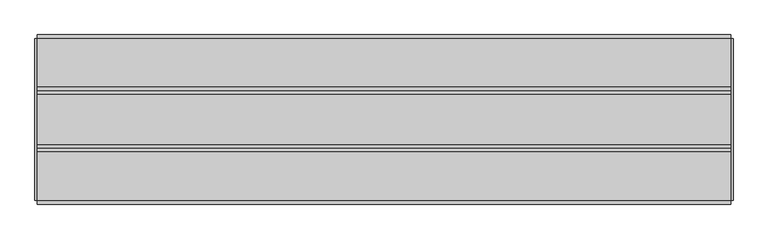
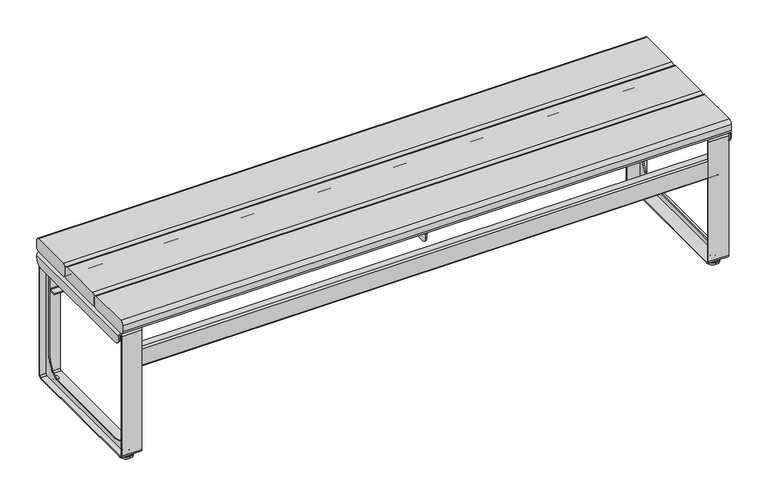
"""IFC4 building model written with IfcOpenShell, lengths in millimetres: furniture geometry, Roros Produkter - Trend - Bench - 32941 : Roros Produkter - Trend - Bench - 32941."""

from ifc_helpers import new_model, si_unit, point, frame, frame_2d, origin, place, context, project, spatial, polyline, circle_curve, ellipse_curve, trimmed, segment, composite_curve, outline, extrude, source, transform, mapped, element, save
from ifc_brep_helpers import plane_surface, cylinder_surface, revolved_surface, advanced_brep


def furniture_b0182ef4(model_context):
    return source(origin(), model_context, "Body", "SolidModel", [
        advanced_brep(
        [(2.7, 209.346, 392.5), (5.7, 209.346, 392.5), (5.7, 189.346, 372.5), (2.7, 189.346, 372.5), (2.7, 209.782, 392.5), (5.7, 209.782, 392.5), (5.7, -210.218, 392.5), (2.7, -210.218, 392.5), (2.7, -190.218, 372.5), (5.7, -190.218, 372.5), (5.7, -210.218, 401.5), (10.7, -210.218, 406.5), (68.7, -210.218, 406.5), (68.7, -210.218, 409.5), (10.7, -210.218, 409.5), (2.7, -210.218, 401.5), (2.7, 209.782, 401.5), (10.7, 209.782, 409.5), (68.7, 209.782, 409.5), (68.7, 209.782, 406.5), (10.7, 209.782, 406.5), (5.7, 209.782, 401.5)],
        [
            (0, 1),
            (1, 2, circle_curve(frame((5.7, 189.346, 392.5), z_axis=(-1.0, 0.0, 0.0), x_axis=(0.0, -1.0, 0.0)), 20.0)),
            (2, 3),
            (3, 0, circle_curve(frame((2.7, 189.346, 392.5), z_axis=(1.0, 0.0, 0.0), x_axis=(0.0, -1.0, 0.0)), 20.0)),
            (0, 4),
            (4, 5),
            (5, 1),
            (6, 7),
            (7, 8, circle_curve(frame((2.7, -190.218, 392.5), z_axis=(1.0, 0.0, 0.0), x_axis=(0.0, 1.0, 0.0)), 20.0)),
            (8, 9),
            (9, 6, circle_curve(frame((5.7, -190.218, 392.5), z_axis=(-1.0, 0.0, 0.0), x_axis=(0.0, 1.0, 0.0)), 20.0)),
            (10, 11, circle_curve(frame((10.7, -210.218, 401.5), z_axis=(0.0, 1.0, 0.0), x_axis=(1.0, 0.0, 0.0)), 5.0)),
            (11, 12),
            (12, 13),
            (13, 14),
            (14, 15, circle_curve(frame((10.7, -210.218, 401.5), z_axis=(0.0, -1.0, 0.0), x_axis=(1.0, 0.0, 0.0)), 8.0)),
            (15, 7),
            (6, 10),
            (16, 17, circle_curve(frame((10.7, 209.782, 401.5), z_axis=(0.0, 1.0, 0.0), x_axis=(1.0, 0.0, 0.0)), 8.0)),
            (17, 18),
            (18, 19),
            (19, 20),
            (20, 21, circle_curve(frame((10.7, 209.782, 401.5), z_axis=(0.0, -1.0, 0.0), x_axis=(1.0, 0.0, 0.0)), 5.0)),
            (21, 5),
            (4, 16),
            (21, 10),
            (9, 2),
            (20, 11),
            (19, 12),
            (18, 13),
            (17, 14),
            (16, 15),
            (3, 8),
        ],
        [
            cylinder_surface(frame((-939.822764, 189.346, 392.5), z_axis=(-1.0, 0.0, 0.0), x_axis=(0.0, -1.0, 0.0)), 20.0),
            plane_surface(frame((982.6059491, 214.346, 392.5), z_axis=(0.0, 0.0, -1.0), x_axis=(-1.0, 0.0, 0.0))),
            cylinder_surface(frame((0.0, -190.218, 392.5), z_axis=(-1.0, 0.0, 0.0), x_axis=(0.0, 1.0, 0.0)), 20.0),
            plane_surface(frame((5.7, -210.218, 401.5002), z_axis=(0.0, -1.0, 0.0), x_axis=(0.0, 0.0, 1.0))),
            plane_surface(frame((5.7, 209.782, 401.5002), z_axis=(0.0, 1.0, 0.0), x_axis=(0.0, 0.0, -1.0))),
            plane_surface(frame((5.7, -210.218, 372.5), z_axis=(1.0, 0.0, 0.0), x_axis=(0.0, 1.0, 0.0))),
            revolved_surface(polyline([(15.7, 209.782, 401.5), (15.7, -210.218, 401.5)]), (10.7, 209.782, 401.5), (0.0, 1.0, 0.0)),
            plane_surface(frame((10.7, -210.218, 406.5), z_axis=(0.0, 0.0, -1.0), x_axis=(0.0, 1.0, 0.0))),
            plane_surface(frame((68.7, -210.218, 406.5), z_axis=(1.0, 0.0, 0.0), x_axis=(0.0, 1.0, 0.0))),
            plane_surface(frame((68.7, -210.218, 409.5), z_axis=(0.0, 0.0, 1.0), x_axis=(0.0, 1.0, 0.0))),
            cylinder_surface(frame((10.7, 209.782, 401.5), z_axis=(0.0, -1.0, 0.0), x_axis=(1.0, 0.0, 0.0)), 8.0),
            plane_surface(frame((2.7, -210.218, 401.5), z_axis=(-1.0, 0.0, 0.0), x_axis=(0.0, 1.0, 0.0))),
            plane_surface(frame((2.7, -210.218, 372.5), z_axis=(0.0, 0.0, -1.0), x_axis=(0.0, 1.0, 0.0))),
        ],
        [
            (0, [[1, 2, 3, 4]]),
            (1, [[-1, 5, 6, 7]]),
            (2, [[8, 9, 10, 11]]),
            (3, [[12, 13, 14, 15, 16, 17, -8, 18]]),
            (4, [[19, 20, 21, 22, 23, 24, -6, 25]]),
            (5, [[26, -18, -11, 27, -2, -7, -24]]),
            (6, [[-12, -26, -23, 28]]),
            (7, [[-13, -28, -22, 29]]),
            (8, [[-14, -29, -21, 30]]),
            (9, [[-15, -30, -20, 31]]),
            (10, [[-16, -31, -19, 32]]),
            (11, [[-32, -25, -5, -4, 33, -9, -17]]),
            (12, [[-27, -10, -33, -3]]),
        ],
    ),
        extrude(outline(polyline([(876.3, -176.0925227), (876.3, -185.9074773), (867.8, -190.8149546), (859.3, -185.9074773), (859.3, -176.0925227), (867.8, -171.1850454), (876.3, -176.0925227)])), frame((0.0, 0.0, 10.0), z_axis=(0.0, 0.0, 1.0), x_axis=(1.0, 0.0, 0.0)), (0.0, 0.0, 1.0), 11.7),
        advanced_brep(
        [(867.8, -162.5, 4.3376919), (867.8, -199.5, 4.3376919), (867.8, -199.5, 0.0), (867.8, -162.5, 0.0), (867.8, -163.4907598, 6.0888539), (867.8, -198.5092402, 6.0888539), (867.8, -170.0, 10.0), (867.8, -192.0, 10.0), (867.8, -181.0, 10.0), (867.8, -181.0, 0.0)],
        [
            (0, 1, circle_curve(frame((867.8, -181.0, 4.3376919), z_axis=(0.0, 0.0, -1.0), x_axis=(0.0, -1.0, 0.0)), 18.5)),
            (1, 2),
            (2, 3, circle_curve(frame((867.8, -181.0, 0.0), z_axis=(0.0, 0.0, 1.0), x_axis=(0.0, -1.0, 0.0)), 18.5)),
            (3, 0),
            (1, 0, circle_curve(frame((867.8, -181.0, 4.3376919), z_axis=(0.0, 0.0, -1.0), x_axis=(0.0, -1.0, 0.0)), 18.5)),
            (3, 2, circle_curve(frame((867.8, -181.0, 0.0), z_axis=(0.0, 0.0, 1.0), x_axis=(0.0, -1.0, 0.0)), 18.5)),
            (4, 5, circle_curve(frame((867.8, -181.0, 6.0888539), z_axis=(0.0, 0.0, -1.0), x_axis=(0.0, -1.0, 0.0)), 17.5092402)),
            (5, 1, circle_curve(frame((867.8, -197.457036, 4.3376919), z_axis=(1.0, 0.0, 0.0), x_axis=(0.0, 1.0, 0.0)), 2.042964)),
            (0, 4, circle_curve(frame((867.8, -164.542964, 4.3376919), z_axis=(1.0, 0.0, 0.0), x_axis=(0.0, -1.0, 0.0)), 2.042964)),
            (5, 4, circle_curve(frame((867.8, -181.0, 6.0888539), z_axis=(0.0, 0.0, -1.0), x_axis=(0.0, -1.0, 0.0)), 17.5092402)),
            (6, 7, circle_curve(frame((867.8, -181.0, 10.0), z_axis=(0.0, 0.0, -1.0), x_axis=(0.0, -1.0, 0.0)), 11.0)),
            (7, 5),
            (4, 6),
            (7, 6, circle_curve(frame((867.8, -181.0, 10.0), z_axis=(0.0, 0.0, -1.0), x_axis=(0.0, -1.0, 0.0)), 11.0)),
            (8, 7),
            (6, 8),
            (2, 9),
            (9, 3),
        ],
        [
            cylinder_surface(frame((867.8, -181.0, 10.0), z_axis=(0.0, 0.0, 1.0), x_axis=(0.0, -1.0, 0.0)), 18.5),
            revolved_surface(trimmed(ellipse_curve(frame((867.8, -197.457036, 4.3376919), z_axis=(-1.0, 0.0, 0.0), x_axis=(0.0, 1.0, 0.0)), 2.042964, 2.042964), [point((867.8, -199.5, 4.3376919))], [point((867.8, -198.5092402, 6.0888539))], True, "CARTESIAN"), (867.8, -181.0, 10.0), (0.0, 0.0, 1.0)),
            revolved_surface(polyline([(867.8, -198.5092402, 6.0888539), (867.8, -192.0, 10.0)]), (867.8, -181.0, 10.0), (0.0, 0.0, 1.0)),
            plane_surface(frame((867.8, -181.0, 10.0), z_axis=(0.0, 0.0, 1.0), x_axis=(0.0, -1.0, 0.0))),
            plane_surface(frame((867.8, -181.0, 0.0), z_axis=(0.0, 0.0, -1.0), x_axis=(0.0, -1.0, 0.0))),
        ],
        [
            (0, [[1, 2, 3, 4]]),
            (0, [[5, -4, 6, -2]]),
            (1, [[7, 8, -1, 9]]),
            (1, [[10, -9, -5, -8]]),
            (2, [[11, 12, -7, 13]]),
            (2, [[14, -13, -10, -12]]),
            (3, [[15, -11, 16]]),
            (3, [[-16, -14, -15]]),
            (4, [[-3, 17, 18]]),
            (4, [[-6, -18, -17]]),
        ],
    ),
        extrude(outline(polyline([(876.3, 185.9074773), (876.3, 176.0925227), (867.8, 171.1850454), (859.3, 176.0925227), (859.3, 185.9074773), (867.8, 190.8149546), (876.3, 185.9074773)])), frame((0.0, 0.0, 10.0), z_axis=(0.0, 0.0, 1.0), x_axis=(1.0, 0.0, 0.0)), (0.0, 0.0, 1.0), 11.7),
        advanced_brep(
        [(867.8, 162.5, 0.0), (867.8, 199.5, 0.0), (867.8, 199.5, 4.3376919), (867.8, 162.5, 4.3376919), (867.8, 198.5092402, 6.0888539), (867.8, 163.4907598, 6.0888539), (867.8, 192.0, 10.0), (867.8, 170.0, 10.0), (867.8, 181.0, 10.0), (867.8, 181.0, 0.0)],
        [
            (0, 1, circle_curve(frame((867.8, 181.0, 0.0), z_axis=(0.0, 0.0, 1.0), x_axis=(0.0, 1.0, 0.0)), 18.5)),
            (1, 2),
            (2, 3, circle_curve(frame((867.8, 181.0, 4.3376919), z_axis=(0.0, 0.0, -1.0), x_axis=(0.0, 1.0, 0.0)), 18.5)),
            (3, 0),
            (1, 0, circle_curve(frame((867.8, 181.0, 0.0), z_axis=(0.0, 0.0, 1.0), x_axis=(0.0, 1.0, 0.0)), 18.5)),
            (3, 2, circle_curve(frame((867.8, 181.0, 4.3376919), z_axis=(0.0, 0.0, -1.0), x_axis=(0.0, 1.0, 0.0)), 18.5)),
            (2, 4, circle_curve(frame((867.8, 197.457036, 4.3376919), z_axis=(1.0, 0.0, 0.0), x_axis=(0.0, -1.0, 0.0)), 2.042964)),
            (4, 5, circle_curve(frame((867.8, 181.0, 6.0888539), z_axis=(0.0, 0.0, -1.0), x_axis=(0.0, 1.0, 0.0)), 17.5092402)),
            (5, 3, circle_curve(frame((867.8, 164.542964, 4.3376919), z_axis=(1.0, 0.0, 0.0), x_axis=(0.0, 1.0, 0.0)), 2.042964)),
            (5, 4, circle_curve(frame((867.8, 181.0, 6.0888539), z_axis=(0.0, 0.0, -1.0), x_axis=(0.0, 1.0, 0.0)), 17.5092402)),
            (4, 6),
            (6, 7, circle_curve(frame((867.8, 181.0, 10.0), z_axis=(0.0, 0.0, -1.0), x_axis=(0.0, 1.0, 0.0)), 11.0)),
            (7, 5),
            (7, 6, circle_curve(frame((867.8, 181.0, 10.0), z_axis=(0.0, 0.0, -1.0), x_axis=(0.0, 1.0, 0.0)), 11.0)),
            (6, 8),
            (8, 7),
            (9, 1),
            (0, 9),
        ],
        [
            cylinder_surface(frame((867.8, 181.0, 10.0), z_axis=(0.0, 0.0, -1.0), x_axis=(0.0, 1.0, 0.0)), 18.5),
            revolved_surface(trimmed(ellipse_curve(frame((867.8, 197.457036, 4.3376919), z_axis=(-1.0, 0.0, 0.0), x_axis=(0.0, -1.0, 0.0)), 2.042964, 2.042964), [point((867.8, 198.5092402, 6.0888539))], [point((867.8, 199.5, 4.3376919))], True, "CARTESIAN"), (867.8, 181.0, 10.0), (0.0, 0.0, -1.0)),
            revolved_surface(polyline([(867.8, 192.0, 10.0), (867.8, 198.5092402, 6.0888539)]), (867.8, 181.0, 10.0), (0.0, 0.0, -1.0)),
            plane_surface(frame((867.8, 181.0, 10.0), z_axis=(0.0, 0.0, 1.0), x_axis=(0.0, 1.0, 0.0))),
            plane_surface(frame((867.8, 181.0, 0.0), z_axis=(0.0, 0.0, -1.0), x_axis=(0.0, 1.0, 0.0))),
        ],
        [
            (0, [[1, 2, 3, 4]]),
            (0, [[5, -4, 6, -2]]),
            (1, [[-3, 7, 8, 9]]),
            (1, [[-6, -9, 10, -7]]),
            (2, [[-8, 11, 12, 13]]),
            (2, [[-10, -13, 14, -11]]),
            (3, [[-12, 15, 16]]),
            (3, [[-14, -16, -15]]),
            (4, [[17, -1, 18]]),
            (4, [[-18, -5, -17]]),
        ],
    ),
        extrude(outline(polyline([(-876.3, -176.0925227), (-867.8, -171.1850454), (-859.3, -176.0925227), (-859.3, -185.9074773), (-867.8, -190.8149546), (-876.3, -185.9074773), (-876.3, -176.0925227)])), frame((0.0, 0.0, 10.0), z_axis=(0.0, 0.0, 1.0), x_axis=(1.0, 0.0, 0.0)), (0.0, 0.0, 1.0), 11.7),
        advanced_brep(
        [(-867.8, -162.5, 0.0), (-867.8, -199.5, 0.0), (-867.8, -199.5, 4.3376919), (-867.8, -162.5, 4.3376919), (-867.8, -198.5092402, 6.0888539), (-867.8, -163.4907598, 6.0888539), (-867.8, -192.0, 10.0), (-867.8, -170.0, 10.0), (-867.8, -181.0, 10.0), (-867.8, -181.0, 0.0)],
        [
            (0, 1, circle_curve(frame((-867.8, -181.0, 0.0), z_axis=(0.0, 0.0, 1.0), x_axis=(0.0, -1.0, 0.0)), 18.5)),
            (1, 2),
            (2, 3, circle_curve(frame((-867.8, -181.0, 4.3376919), z_axis=(0.0, 0.0, -1.0), x_axis=(0.0, -1.0, 0.0)), 18.5)),
            (3, 0),
            (1, 0, circle_curve(frame((-867.8, -181.0, 0.0), z_axis=(0.0, 0.0, 1.0), x_axis=(0.0, -1.0, 0.0)), 18.5)),
            (3, 2, circle_curve(frame((-867.8, -181.0, 4.3376919), z_axis=(0.0, 0.0, -1.0), x_axis=(0.0, -1.0, 0.0)), 18.5)),
            (2, 4, circle_curve(frame((-867.8, -197.457036, 4.3376919), z_axis=(-1.0, 0.0, 0.0), x_axis=(0.0, 1.0, 0.0)), 2.042964)),
            (4, 5, circle_curve(frame((-867.8, -181.0, 6.0888539), z_axis=(0.0, 0.0, -1.0), x_axis=(0.0, -1.0, 0.0)), 17.5092402)),
            (5, 3, circle_curve(frame((-867.8, -164.542964, 4.3376919), z_axis=(-1.0, 0.0, 0.0), x_axis=(0.0, -1.0, 0.0)), 2.042964)),
            (5, 4, circle_curve(frame((-867.8, -181.0, 6.0888539), z_axis=(0.0, 0.0, -1.0), x_axis=(0.0, -1.0, 0.0)), 17.5092402)),
            (4, 6),
            (6, 7, circle_curve(frame((-867.8, -181.0, 10.0), z_axis=(0.0, 0.0, -1.0), x_axis=(0.0, -1.0, 0.0)), 11.0)),
            (7, 5),
            (7, 6, circle_curve(frame((-867.8, -181.0, 10.0), z_axis=(0.0, 0.0, -1.0), x_axis=(0.0, -1.0, 0.0)), 11.0)),
            (6, 8),
            (8, 7),
            (9, 1),
            (0, 9),
        ],
        [
            cylinder_surface(frame((-867.8, -181.0, 10.0), z_axis=(0.0, 0.0, -1.0), x_axis=(0.0, -1.0, 0.0)), 18.5),
            revolved_surface(trimmed(ellipse_curve(frame((-867.8, -197.457036, 4.3376919), z_axis=(1.0, 0.0, 0.0), x_axis=(0.0, 1.0, 0.0)), 2.042964, 2.042964), [point((-867.8, -198.5092402, 6.0888539))], [point((-867.8, -199.5, 4.3376919))], True, "CARTESIAN"), (-867.8, -181.0, 10.0), (0.0, 0.0, -1.0)),
            revolved_surface(polyline([(-867.8, -192.0, 10.0), (-867.8, -198.5092402, 6.0888539)]), (-867.8, -181.0, 10.0), (0.0, 0.0, -1.0)),
            plane_surface(frame((-867.8, -181.0, 10.0), z_axis=(0.0, 0.0, 1.0), x_axis=(0.0, -1.0, 0.0))),
            plane_surface(frame((-867.8, -181.0, 0.0), z_axis=(0.0, 0.0, -1.0), x_axis=(0.0, -1.0, 0.0))),
        ],
        [
            (0, [[1, 2, 3, 4]]),
            (0, [[5, -4, 6, -2]]),
            (1, [[-3, 7, 8, 9]]),
            (1, [[-6, -9, 10, -7]]),
            (2, [[-8, 11, 12, 13]]),
            (2, [[-10, -13, 14, -11]]),
            (3, [[-12, 15, 16]]),
            (3, [[-14, -16, -15]]),
            (4, [[17, -1, 18]]),
            (4, [[-18, -5, -17]]),
        ],
    ),
        extrude(outline(polyline([(-876.3, 185.9074773), (-867.8, 190.8149546), (-859.3, 185.9074773), (-859.3, 176.0925227), (-867.8, 171.1850454), (-876.3, 176.0925227), (-876.3, 185.9074773)])), frame((0.0, 0.0, 10.0), z_axis=(0.0, 0.0, 1.0), x_axis=(1.0, 0.0, 0.0)), (0.0, 0.0, 1.0), 11.7),
        advanced_brep(
        [(-867.8, 162.5, 4.3376919), (-867.8, 199.5, 4.3376919), (-867.8, 199.5, 0.0), (-867.8, 162.5, 0.0), (-867.8, 163.4907598, 6.0888539), (-867.8, 198.5092402, 6.0888539), (-867.8, 170.0, 10.0), (-867.8, 192.0, 10.0), (-867.8, 181.0, 10.0), (-867.8, 181.0, 0.0)],
        [
            (0, 1, circle_curve(frame((-867.8, 181.0, 4.3376919), z_axis=(0.0, 0.0, -1.0), x_axis=(0.0, 1.0, 0.0)), 18.5)),
            (1, 2),
            (2, 3, circle_curve(frame((-867.8, 181.0, 0.0), z_axis=(0.0, 0.0, 1.0), x_axis=(0.0, 1.0, 0.0)), 18.5)),
            (3, 0),
            (1, 0, circle_curve(frame((-867.8, 181.0, 4.3376919), z_axis=(0.0, 0.0, -1.0), x_axis=(0.0, 1.0, 0.0)), 18.5)),
            (3, 2, circle_curve(frame((-867.8, 181.0, 0.0), z_axis=(0.0, 0.0, 1.0), x_axis=(0.0, 1.0, 0.0)), 18.5)),
            (4, 5, circle_curve(frame((-867.8, 181.0, 6.0888539), z_axis=(0.0, 0.0, -1.0), x_axis=(0.0, 1.0, 0.0)), 17.5092402)),
            (5, 1, circle_curve(frame((-867.8, 197.457036, 4.3376919), z_axis=(-1.0, 0.0, 0.0), x_axis=(0.0, -1.0, 0.0)), 2.042964)),
            (0, 4, circle_curve(frame((-867.8, 164.542964, 4.3376919), z_axis=(-1.0, 0.0, 0.0), x_axis=(0.0, 1.0, 0.0)), 2.042964)),
            (5, 4, circle_curve(frame((-867.8, 181.0, 6.0888539), z_axis=(0.0, 0.0, -1.0), x_axis=(0.0, 1.0, 0.0)), 17.5092402)),
            (6, 7, circle_curve(frame((-867.8, 181.0, 10.0), z_axis=(0.0, 0.0, -1.0), x_axis=(0.0, 1.0, 0.0)), 11.0)),
            (7, 5),
            (4, 6),
            (7, 6, circle_curve(frame((-867.8, 181.0, 10.0), z_axis=(0.0, 0.0, -1.0), x_axis=(0.0, 1.0, 0.0)), 11.0)),
            (8, 7),
            (6, 8),
            (2, 9),
            (9, 3),
        ],
        [
            cylinder_surface(frame((-867.8, 181.0, 10.0), z_axis=(0.0, 0.0, 1.0), x_axis=(0.0, 1.0, 0.0)), 18.5),
            revolved_surface(trimmed(ellipse_curve(frame((-867.8, 197.457036, 4.3376919), z_axis=(1.0, 0.0, 0.0), x_axis=(0.0, -1.0, 0.0)), 2.042964, 2.042964), [point((-867.8, 199.5, 4.3376919))], [point((-867.8, 198.5092402, 6.0888539))], True, "CARTESIAN"), (-867.8, 181.0, 10.0), (0.0, 0.0, 1.0)),
            revolved_surface(polyline([(-867.8, 198.5092402, 6.0888539), (-867.8, 192.0, 10.0)]), (-867.8, 181.0, 10.0), (0.0, 0.0, 1.0)),
            plane_surface(frame((-867.8, 181.0, 10.0), z_axis=(0.0, 0.0, 1.0), x_axis=(0.0, 1.0, 0.0))),
            plane_surface(frame((-867.8, 181.0, 0.0), z_axis=(0.0, 0.0, -1.0), x_axis=(0.0, 1.0, 0.0))),
        ],
        [
            (0, [[1, 2, 3, 4]]),
            (0, [[5, -4, 6, -2]]),
            (1, [[7, 8, -1, 9]]),
            (1, [[10, -9, -5, -8]]),
            (2, [[11, 12, -7, 13]]),
            (2, [[14, -13, -10, -12]]),
            (3, [[15, -11, 16]]),
            (3, [[-16, -14, -15]]),
            (4, [[-3, 17, 18]]),
            (4, [[-6, -18, -17]]),
        ],
    ),
        extrude(outline(composite_curve([segment(trimmed(circle_curve(frame_2d((203.5, 337.0)), 4.5), [point((203.5, 341.5))], [point((208.0, 337.0))], False, "CARTESIAN"), True, "CONTINUOUS"), segment(polyline([(208.0, 337.0), (208.0, 285.999996)]), True, "CONTINUOUS"), segment(trimmed(circle_curve(frame_2d((203.5, 285.999996)), 4.5), [point((208.0, 285.999996))], [point((203.5, 281.499996))], False, "CARTESIAN"), True, "CONTINUOUS"), segment(polyline([(203.5, 281.499996), (183.0, 281.499996), (183.0, 283.4999961), (203.5, 283.4999961)]), True, "CONTINUOUS"), segment(trimmed(circle_curve(frame_2d((203.5, 285.9999961)), 2.5), [point((203.5, 283.4999961))], [point((206.0, 285.9999961))], True, "CARTESIAN"), True, "CONTINUOUS"), segment(polyline([(206.0, 285.9999961), (206.0, 336.9999999)]), True, "CONTINUOUS"), segment(trimmed(circle_curve(frame_2d((203.5, 336.9999999)), 2.5), [point((206.0, 336.9999999))], [point((203.5, 339.4999999))], True, "CARTESIAN"), True, "CONTINUOUS"), segment(polyline([(203.5, 339.4999999), (183.0, 339.4999999), (183.0, 341.5), (203.5, 341.5)]), True, "CONTINUOUS")], self_intersect=False)), frame((-870.0, 0.0, 0.0), z_axis=(1.0, 0.0, 0.0), x_axis=(0.0, 1.0, 0.0)), (0.0, 0.0, 1.0), 1740.0),
        extrude(outline(composite_curve([segment(polyline([(-203.5, 341.5), (-183.0, 341.5), (-183.0, 339.4999999), (-203.5, 339.4999999)]), True, "CONTINUOUS"), segment(trimmed(circle_curve(frame_2d((-203.5, 336.9999999)), 2.5), [point((-203.5, 339.4999999))], [point((-206.0, 336.9999999))], True, "CARTESIAN"), True, "CONTINUOUS"), segment(polyline([(-206.0, 336.9999999), (-206.0, 285.9999961)]), True, "CONTINUOUS"), segment(trimmed(circle_curve(frame_2d((-203.5, 285.9999961)), 2.5), [point((-206.0, 285.9999961))], [point((-203.5, 283.4999961))], True, "CARTESIAN"), True, "CONTINUOUS"), segment(polyline([(-203.5, 283.4999961), (-183.0, 283.4999961), (-183.0, 281.499996), (-203.5, 281.499996)]), True, "CONTINUOUS"), segment(trimmed(circle_curve(frame_2d((-203.5, 285.999996)), 4.5), [point((-203.5, 281.499996))], [point((-208.0, 285.999996))], False, "CARTESIAN"), True, "CONTINUOUS"), segment(polyline([(-208.0, 285.999996), (-208.0, 337.0)]), True, "CONTINUOUS"), segment(trimmed(circle_curve(frame_2d((-203.5, 337.0)), 4.5), [point((-208.0, 337.0))], [point((-203.5, 341.5))], False, "CARTESIAN"), True, "CONTINUOUS")], self_intersect=False)), frame((-870.0, 0.0, 0.0), z_axis=(1.0, 0.0, 0.0), x_axis=(0.0, 1.0, 0.0)), (0.0, 0.0, 1.0), 1740.0),
        extrude(outline(composite_curve([segment(trimmed(circle_curve(frame_2d((65.0, 439.5)), 10.0), [point((65.0, 449.5))], [point((75.0, 439.5))], False, "CARTESIAN"), True, "CONTINUOUS"), segment(polyline([(75.0, 439.5), (75.0, 419.5)]), True, "CONTINUOUS"), segment(trimmed(circle_curve(frame_2d((65.0, 419.5)), 10.0), [point((75.0, 419.5))], [point((65.0, 409.5))], False, "CARTESIAN"), True, "CONTINUOUS"), segment(polyline([(65.0, 409.5), (-65.0, 409.5)]), True, "CONTINUOUS"), segment(trimmed(circle_curve(frame_2d((-65.0, 419.5)), 10.0), [point((-65.0, 409.5))], [point((-75.0, 419.5))], False, "CARTESIAN"), True, "CONTINUOUS"), segment(polyline([(-75.0, 419.5), (-75.0, 439.5)]), True, "CONTINUOUS"), segment(trimmed(circle_curve(frame_2d((-65.0, 439.5)), 10.0), [point((-75.0, 439.5))], [point((-65.0, 449.5))], False, "CARTESIAN"), True, "CONTINUOUS"), segment(polyline([(-65.0, 449.5), (65.0, 449.5)]), True, "CONTINUOUS")], self_intersect=False)), frame((-900.0, 0.0, 0.0), z_axis=(1.0, 0.0, 0.0), x_axis=(0.0, 1.0, 0.0)), (0.0, 0.0, 1.0), 1800.0),
        extrude(outline(composite_curve([segment(trimmed(circle_curve(frame_2d((210.0, 439.5)), 10.0), [point((210.0, 449.5))], [point((220.0, 439.5))], False, "CARTESIAN"), True, "CONTINUOUS"), segment(polyline([(220.0, 439.5), (220.0, 419.5)]), True, "CONTINUOUS"), segment(trimmed(circle_curve(frame_2d((210.0, 419.5)), 10.0), [point((220.0, 419.5))], [point((210.0, 409.5))], False, "CARTESIAN"), True, "CONTINUOUS"), segment(polyline([(210.0, 409.5), (85.0, 409.5)]), True, "CONTINUOUS"), segment(trimmed(circle_curve(frame_2d((85.0, 419.5)), 10.0), [point((85.0, 409.5))], [point((75.0, 419.5))], False, "CARTESIAN"), True, "CONTINUOUS"), segment(polyline([(75.0, 419.5), (75.0, 439.5)]), True, "CONTINUOUS"), segment(trimmed(circle_curve(frame_2d((85.0, 439.5)), 10.0), [point((75.0, 439.5))], [point((85.0, 449.5))], False, "CARTESIAN"), True, "CONTINUOUS"), segment(polyline([(85.0, 449.5), (210.0, 449.5)]), True, "CONTINUOUS")], self_intersect=False)), frame((-900.0, 0.0, 0.0), z_axis=(1.0, 0.0, 0.0), x_axis=(0.0, 1.0, 0.0)), (0.0, 0.0, 1.0), 1800.0),
        extrude(outline(composite_curve([segment(trimmed(circle_curve(frame_2d((-85.0, 439.5)), 10.0), [point((-85.0, 449.5))], [point((-75.0, 439.5))], False, "CARTESIAN"), True, "CONTINUOUS"), segment(polyline([(-75.0, 439.5), (-75.0, 419.5)]), True, "CONTINUOUS"), segment(trimmed(circle_curve(frame_2d((-85.0, 419.5)), 10.0), [point((-75.0, 419.5))], [point((-85.0, 409.5))], False, "CARTESIAN"), True, "CONTINUOUS"), segment(polyline([(-85.0, 409.5), (-210.0, 409.5)]), True, "CONTINUOUS"), segment(trimmed(circle_curve(frame_2d((-210.0, 419.5)), 10.0), [point((-210.0, 409.5))], [point((-220.0, 419.5))], False, "CARTESIAN"), True, "CONTINUOUS"), segment(polyline([(-220.0, 419.5), (-220.0, 439.5)]), True, "CONTINUOUS"), segment(trimmed(circle_curve(frame_2d((-210.0, 439.5)), 10.0), [point((-220.0, 439.5))], [point((-210.0, 449.5))], False, "CARTESIAN"), True, "CONTINUOUS"), segment(polyline([(-210.0, 449.5), (-85.0, 449.5)]), True, "CONTINUOUS")], self_intersect=False)), frame((-900.0, 0.0, 0.0), z_axis=(1.0, 0.0, 0.0), x_axis=(0.0, 1.0, 0.0)), (0.0, 0.0, 1.0), 1800.0),
        advanced_brep(
        [(905.7, -210.218, 401.5), (897.7, -210.218, 409.5), (839.7, -210.218, 409.5), (839.7, -210.218, 406.5), (897.7, -210.218, 406.5), (902.7, -210.218, 401.5), (902.7, -210.218, 392.5), (905.7, -210.218, 392.5), (902.7, 209.782, 401.5), (897.7, 209.782, 406.5), (839.7, 209.782, 406.5), (839.7, 209.782, 409.5), (897.7, 209.782, 409.5), (905.7, 209.782, 401.5), (905.7, 209.782, 392.5), (902.7, 209.782, 392.5), (902.7, 209.346, 392.5), (902.7, 189.346, 372.5), (902.7, -190.218, 372.5), (905.7, -190.218, 372.5), (905.7, 189.346, 372.5), (905.7, 209.346, 392.5)],
        [
            (0, 1, circle_curve(frame((897.7, -210.218, 401.5), z_axis=(0.0, -1.0, 0.0), x_axis=(-1.0, 0.0, 0.0)), 8.0)),
            (1, 2),
            (2, 3),
            (3, 4),
            (4, 5, circle_curve(frame((897.7, -210.218, 401.5), z_axis=(0.0, 1.0, 0.0), x_axis=(-1.0, 0.0, 0.0)), 5.0)),
            (5, 6),
            (6, 7),
            (7, 0),
            (8, 9, circle_curve(frame((897.7, 209.782, 401.5), z_axis=(0.0, -1.0, 0.0), x_axis=(-1.0, 0.0, 0.0)), 5.0)),
            (9, 10),
            (10, 11),
            (11, 12),
            (12, 13, circle_curve(frame((897.7, 209.782, 401.5), z_axis=(0.0, 1.0, 0.0), x_axis=(-1.0, 0.0, 0.0)), 8.0)),
            (13, 14),
            (14, 15),
            (15, 8),
            (5, 8),
            (15, 16),
            (16, 17, circle_curve(frame((902.7, 189.346, 392.5), z_axis=(-1.0, 0.0, 0.0), x_axis=(0.0, -1.0, 0.0)), 20.0)),
            (17, 18),
            (18, 6, circle_curve(frame((902.7, -190.218, 392.5), z_axis=(-1.0, 0.0, 0.0), x_axis=(0.0, 1.0, 0.0)), 20.0)),
            (4, 9),
            (3, 10),
            (2, 11),
            (1, 12),
            (0, 13),
            (7, 19, circle_curve(frame((905.7, -190.218, 392.5), z_axis=(1.0, 0.0, 0.0), x_axis=(0.0, 1.0, 0.0)), 20.0)),
            (19, 20),
            (20, 21, circle_curve(frame((905.7, 189.346, 392.5), z_axis=(1.0, 0.0, 0.0), x_axis=(0.0, -1.0, 0.0)), 20.0)),
            (21, 14),
            (19, 18),
            (17, 20),
            (16, 21),
        ],
        [
            plane_surface(frame((905.7, -210.218, 372.5), z_axis=(0.0, -1.0, 0.0), x_axis=(1.0, 0.0, 0.0))),
            plane_surface(frame((905.7, 209.782, 372.5), z_axis=(0.0, 1.0, 0.0), x_axis=(-1.0, 0.0, 0.0))),
            plane_surface(frame((902.7, -210.218, 401.5), z_axis=(-1.0, 0.0, 0.0), x_axis=(0.0, 1.0, 0.0))),
            revolved_surface(polyline([(892.7, 209.782, 401.5), (892.7, -210.218, 401.5)]), (897.7, 209.782, 401.5), (0.0, 1.0, 0.0)),
            plane_surface(frame((839.7, -210.218, 406.5), z_axis=(0.0, 0.0, -1.0), x_axis=(0.0, 1.0, 0.0))),
            plane_surface(frame((839.7, -210.218, 409.5), z_axis=(-1.0, 0.0, 0.0), x_axis=(0.0, 1.0, 0.0))),
            plane_surface(frame((897.7, -210.218, 409.5), z_axis=(0.0, 0.0, 1.0), x_axis=(0.0, 1.0, 0.0))),
            cylinder_surface(frame((897.7, 209.782, 401.5), z_axis=(0.0, -1.0, 0.0), x_axis=(-1.0, 0.0, 0.0)), 8.0),
            plane_surface(frame((905.7, -210.218, 372.5), z_axis=(1.0, 0.0, 0.0), x_axis=(0.0, 1.0, 0.0))),
            plane_surface(frame((902.7, -210.218, 372.5), z_axis=(0.0, 0.0, -1.0), x_axis=(0.0, 1.0, 0.0))),
            cylinder_surface(frame((-939.822764, 189.346, 392.5), z_axis=(-1.0, 0.0, 0.0), x_axis=(0.0, -1.0, 0.0)), 20.0),
            plane_surface(frame((982.6059491, 214.346, 392.5), z_axis=(0.0, 0.0, -1.0), x_axis=(-1.0, 0.0, 0.0))),
            cylinder_surface(frame((0.0, -190.218, 392.5), z_axis=(-1.0, 0.0, 0.0), x_axis=(0.0, 1.0, 0.0)), 20.0),
        ],
        [
            (0, [[1, 2, 3, 4, 5, 6, 7, 8]]),
            (1, [[9, 10, 11, 12, 13, 14, 15, 16]]),
            (2, [[17, -16, 18, 19, 20, 21, -6]]),
            (3, [[-5, 22, -9, -17]]),
            (4, [[-4, 23, -10, -22]]),
            (5, [[-3, 24, -11, -23]]),
            (6, [[-2, 25, -12, -24]]),
            (7, [[-1, 26, -13, -25]]),
            (8, [[-26, -8, 27, 28, 29, 30, -14]]),
            (9, [[-28, 31, -20, 32]]),
            (10, [[33, -29, -32, -19]]),
            (11, [[-33, -18, -15, -30]]),
            (12, [[-7, -21, -31, -27]]),
        ],
    ),
        advanced_brep(
        [(-902.7, -210.218, 401.5), (-897.7, -210.218, 406.5), (-839.7, -210.218, 406.5), (-839.7, -210.218, 409.5), (-897.7, -210.218, 409.5), (-905.7, -210.218, 401.5), (-905.7, -210.218, 392.5), (-902.7, -210.218, 392.5), (-905.7, 209.782, 401.5), (-897.7, 209.782, 409.5), (-839.7, 209.782, 409.5), (-839.7, 209.782, 406.5), (-897.7, 209.782, 406.5), (-902.7, 209.782, 401.5), (-902.7, 209.782, 392.5), (-905.7, 209.782, 392.5), (-902.7, -190.218, 372.5), (-902.7, 189.346, 372.5), (-902.7, 209.346, 392.5), (-905.7, 209.346, 392.5), (-905.7, 189.346, 372.5), (-905.7, -190.218, 372.5)],
        [
            (0, 1, circle_curve(frame((-897.7, -210.218, 401.5), z_axis=(0.0, 1.0, 0.0), x_axis=(1.0, 0.0, 0.0)), 5.0)),
            (1, 2),
            (2, 3),
            (3, 4),
            (4, 5, circle_curve(frame((-897.7, -210.218, 401.5), z_axis=(0.0, -1.0, 0.0), x_axis=(1.0, 0.0, 0.0)), 8.0)),
            (5, 6),
            (6, 7),
            (7, 0),
            (8, 9, circle_curve(frame((-897.7, 209.782, 401.5), z_axis=(0.0, 1.0, 0.0), x_axis=(1.0, 0.0, 0.0)), 8.0)),
            (9, 10),
            (10, 11),
            (11, 12),
            (12, 13, circle_curve(frame((-897.7, 209.782, 401.5), z_axis=(0.0, -1.0, 0.0), x_axis=(1.0, 0.0, 0.0)), 5.0)),
            (13, 14),
            (14, 15),
            (15, 8),
            (13, 0),
            (7, 16, circle_curve(frame((-902.7, -190.218, 392.5), z_axis=(1.0, 0.0, 0.0), x_axis=(0.0, 1.0, 0.0)), 20.0)),
            (16, 17),
            (17, 18, circle_curve(frame((-902.7, 189.346, 392.5), z_axis=(1.0, 0.0, 0.0), x_axis=(0.0, -1.0, 0.0)), 20.0)),
            (18, 14),
            (12, 1),
            (11, 2),
            (10, 3),
            (9, 4),
            (8, 5),
            (15, 19),
            (19, 20, circle_curve(frame((-905.7, 189.346, 392.5), z_axis=(-1.0, 0.0, 0.0), x_axis=(0.0, -1.0, 0.0)), 20.0)),
            (20, 21),
            (21, 6, circle_curve(frame((-905.7, -190.218, 392.5), z_axis=(-1.0, 0.0, 0.0), x_axis=(0.0, 1.0, 0.0)), 20.0)),
            (16, 21),
            (20, 17),
            (19, 18),
        ],
        [
            plane_surface(frame((-902.7, -210.218, 401.5002), z_axis=(0.0, -1.0, 0.0), x_axis=(0.0, 0.0, 1.0))),
            plane_surface(frame((-902.7, 209.782, 401.5002), z_axis=(0.0, 1.0, 0.0), x_axis=(0.0, 0.0, -1.0))),
            plane_surface(frame((-902.7, -210.218, 372.5), z_axis=(1.0, 0.0, 0.0), x_axis=(0.0, 1.0, 0.0))),
            revolved_surface(polyline([(-892.7, 209.782, 401.5), (-892.7, -210.218, 401.5)]), (-897.7, 209.782, 401.5), (0.0, 1.0, 0.0)),
            plane_surface(frame((-897.7, -210.218, 406.5), z_axis=(0.0, 0.0, -1.0), x_axis=(0.0, 1.0, 0.0))),
            plane_surface(frame((-839.7, -210.218, 406.5), z_axis=(1.0, 0.0, 0.0), x_axis=(0.0, 1.0, 0.0))),
            plane_surface(frame((-839.7, -210.218, 409.5), z_axis=(0.0, 0.0, 1.0), x_axis=(0.0, 1.0, 0.0))),
            cylinder_surface(frame((-897.7, 209.782, 401.5), z_axis=(0.0, -1.0, 0.0), x_axis=(1.0, 0.0, 0.0)), 8.0),
            plane_surface(frame((-905.7, -210.218, 401.5), z_axis=(-1.0, 0.0, 0.0), x_axis=(0.0, 1.0, 0.0))),
            plane_surface(frame((-905.7, -210.218, 372.5), z_axis=(0.0, 0.0, -1.0), x_axis=(0.0, 1.0, 0.0))),
            cylinder_surface(frame((-939.822764, 189.346, 392.5), z_axis=(-1.0, 0.0, 0.0), x_axis=(0.0, -1.0, 0.0)), 20.0),
            plane_surface(frame((982.6059491, 214.346, 392.5), z_axis=(0.0, 0.0, -1.0), x_axis=(-1.0, 0.0, 0.0))),
            cylinder_surface(frame((0.0, -190.218, 392.5), z_axis=(-1.0, 0.0, 0.0), x_axis=(0.0, 1.0, 0.0)), 20.0),
        ],
        [
            (0, [[1, 2, 3, 4, 5, 6, 7, 8]]),
            (1, [[9, 10, 11, 12, 13, 14, 15, 16]]),
            (2, [[17, -8, 18, 19, 20, 21, -14]]),
            (3, [[-1, -17, -13, 22]]),
            (4, [[-2, -22, -12, 23]]),
            (5, [[-3, -23, -11, 24]]),
            (6, [[-4, -24, -10, 25]]),
            (7, [[-5, -25, -9, 26]]),
            (8, [[-26, -16, 27, 28, 29, 30, -6]]),
            (9, [[-19, 31, -29, 32]]),
            (10, [[33, -20, -32, -28]]),
            (11, [[-33, -27, -15, -21]]),
            (12, [[-7, -30, -31, -18]]),
        ],
    ),
        extrude(outline(composite_curve([segment(trimmed(circle_curve(frame_2d((-203.0, 398.5)), 5.0), [point((-208.0, 398.5))], [point((-203.0, 403.5))], False, "CARTESIAN"), True, "CONTINUOUS"), segment(polyline([(-203.0, 403.5), (-91.0, 403.5), (-91.0, 387.5), (-143.0, 387.5)]), True, "CONTINUOUS"), segment(trimmed(circle_curve(frame_2d((-143.0, 337.5)), 50.0), [point((-143.0, 387.5))], [point((-193.0, 337.5))], True, "CARTESIAN"), True, "CONTINUOUS"), segment(polyline([(-193.0, 337.5), (-193.0, 84.5)]), True, "CONTINUOUS"), segment(trimmed(circle_curve(frame_2d((-143.0, 84.5)), 50.0), [point((-193.0, 84.5))], [point((-143.0, 34.5))], True, "CARTESIAN"), True, "CONTINUOUS"), segment(polyline([(-143.0, 34.5), (143.0, 34.5)]), True, "CONTINUOUS"), segment(trimmed(circle_curve(frame_2d((143.0, 84.5)), 50.0), [point((143.0, 34.5))], [point((193.0, 84.5))], True, "CARTESIAN"), True, "CONTINUOUS"), segment(polyline([(193.0, 84.5), (193.0, 337.5)]), True, "CONTINUOUS"), segment(trimmed(circle_curve(frame_2d((143.0, 337.5)), 50.0), [point((193.0, 337.5))], [point((143.0, 387.5))], True, "CARTESIAN"), True, "CONTINUOUS"), segment(polyline([(143.0, 387.5), (91.0, 387.5), (91.0, 403.5), (203.0, 403.5)]), True, "CONTINUOUS"), segment(trimmed(circle_curve(frame_2d((203.0, 398.5)), 5.0), [point((203.0, 403.5))], [point((208.0, 398.5))], False, "CARTESIAN"), True, "CONTINUOUS"), segment(polyline([(208.0, 398.5), (208.0, 24.5)]), True, "CONTINUOUS"), segment(trimmed(circle_curve(frame_2d((203.0, 24.5)), 5.0), [point((208.0, 24.5))], [point((203.0, 19.5))], False, "CARTESIAN"), True, "CONTINUOUS"), segment(polyline([(203.0, 19.5), (-203.0, 19.5)]), True, "CONTINUOUS"), segment(trimmed(circle_curve(frame_2d((-203.0, 24.5)), 5.0), [point((-203.0, 19.5))], [point((-208.0, 24.5))], False, "CARTESIAN"), True, "CONTINUOUS"), segment(polyline([(-208.0, 24.5), (-208.0, 398.5)]), True, "CONTINUOUS")], self_intersect=False)), frame((876.9, 0.0, 0.0), z_axis=(1.0, 0.0, 0.0), x_axis=(0.0, 1.0, 0.0)), (0.0, 0.0, 1.0), 3.0),
        extrude(outline(composite_curve([segment(polyline([(-211.0, 24.5), (-211.0, 398.5)]), True, "CONTINUOUS"), segment(trimmed(circle_curve(frame_2d((-203.0, 398.5)), 8.0), [point((-211.0, 398.5))], [point((-203.0, 406.5))], False, "CARTESIAN"), True, "CONTINUOUS"), segment(polyline([(-203.0, 406.5), (-91.0, 406.5), (-91.0, 403.5), (-203.0, 403.5)]), True, "CONTINUOUS"), segment(trimmed(circle_curve(frame_2d((-203.0, 398.5)), 5.0), [point((-203.0, 403.5))], [point((-208.0, 398.5))], True, "CARTESIAN"), True, "CONTINUOUS"), segment(polyline([(-208.0, 398.5), (-208.0, 24.5)]), True, "CONTINUOUS"), segment(trimmed(circle_curve(frame_2d((-203.0, 24.5)), 5.0), [point((-208.0, 24.5))], [point((-203.0, 19.5))], True, "CARTESIAN"), True, "CONTINUOUS"), segment(polyline([(-203.0, 19.5), (203.0, 19.5)]), True, "CONTINUOUS"), segment(trimmed(circle_curve(frame_2d((203.0, 24.5)), 5.0), [point((203.0, 19.5))], [point((208.0, 24.5))], True, "CARTESIAN"), True, "CONTINUOUS"), segment(polyline([(208.0, 24.5), (208.0, 398.5)]), True, "CONTINUOUS"), segment(trimmed(circle_curve(frame_2d((203.0, 398.5)), 5.0), [point((208.0, 398.5))], [point((203.0, 403.5))], True, "CARTESIAN"), True, "CONTINUOUS"), segment(polyline([(203.0, 403.5), (91.0, 403.5), (91.0, 406.5), (203.0, 406.5)]), True, "CONTINUOUS"), segment(trimmed(circle_curve(frame_2d((203.0, 398.5)), 8.0), [point((203.0, 406.5))], [point((211.0, 398.5))], False, "CARTESIAN"), True, "CONTINUOUS"), segment(polyline([(211.0, 398.5), (211.0, 24.5)]), True, "CONTINUOUS"), segment(trimmed(circle_curve(frame_2d((203.0, 24.5)), 8.0), [point((211.0, 24.5))], [point((203.0, 16.5))], False, "CARTESIAN"), True, "CONTINUOUS"), segment(polyline([(203.0, 16.5), (-203.0, 16.5)]), True, "CONTINUOUS"), segment(trimmed(circle_curve(frame_2d((-203.0, 24.5)), 8.0), [point((-203.0, 16.5))], [point((-211.0, 24.5))], False, "CARTESIAN"), True, "CONTINUOUS")], self_intersect=False)), frame((837.8, 0.0, 0.0), z_axis=(1.0, 0.0, 0.0), x_axis=(0.0, 1.0, 0.0)), (0.0, 0.0, 1.0), 60.0),
        extrude(outline(composite_curve([segment(trimmed(circle_curve(frame_2d((-203.0, 398.5)), 5.0), [point((-208.0, 398.5))], [point((-203.0, 403.5))], False, "CARTESIAN"), True, "CONTINUOUS"), segment(polyline([(-203.0, 403.5), (-91.0, 403.5), (-91.0, 387.5), (-143.0, 387.5)]), True, "CONTINUOUS"), segment(trimmed(circle_curve(frame_2d((-143.0, 337.5)), 50.0), [point((-143.0, 387.5))], [point((-193.0, 337.5))], True, "CARTESIAN"), True, "CONTINUOUS"), segment(polyline([(-193.0, 337.5), (-193.0, 84.5)]), True, "CONTINUOUS"), segment(trimmed(circle_curve(frame_2d((-143.0, 84.5)), 50.0), [point((-193.0, 84.5))], [point((-143.0, 34.5))], True, "CARTESIAN"), True, "CONTINUOUS"), segment(polyline([(-143.0, 34.5), (143.0, 34.5)]), True, "CONTINUOUS"), segment(trimmed(circle_curve(frame_2d((143.0, 84.5)), 50.0), [point((143.0, 34.5))], [point((193.0, 84.5))], True, "CARTESIAN"), True, "CONTINUOUS"), segment(polyline([(193.0, 84.5), (193.0, 337.5)]), True, "CONTINUOUS"), segment(trimmed(circle_curve(frame_2d((143.0, 337.5)), 50.0), [point((193.0, 337.5))], [point((143.0, 387.5))], True, "CARTESIAN"), True, "CONTINUOUS"), segment(polyline([(143.0, 387.5), (91.0, 387.5), (91.0, 403.5), (203.0, 403.5)]), True, "CONTINUOUS"), segment(trimmed(circle_curve(frame_2d((203.0, 398.5)), 5.0), [point((203.0, 403.5))], [point((208.0, 398.5))], False, "CARTESIAN"), True, "CONTINUOUS"), segment(polyline([(208.0, 398.5), (208.0, 24.5)]), True, "CONTINUOUS"), segment(trimmed(circle_curve(frame_2d((203.0, 24.5)), 5.0), [point((208.0, 24.5))], [point((203.0, 19.5))], False, "CARTESIAN"), True, "CONTINUOUS"), segment(polyline([(203.0, 19.5), (-203.0, 19.5)]), True, "CONTINUOUS"), segment(trimmed(circle_curve(frame_2d((-203.0, 24.5)), 5.0), [point((-203.0, 19.5))], [point((-208.0, 24.5))], False, "CARTESIAN"), True, "CONTINUOUS"), segment(polyline([(-208.0, 24.5), (-208.0, 398.5)]), True, "CONTINUOUS")], self_intersect=False)), frame((-879.9, 0.0, 0.0), z_axis=(1.0, 0.0, 0.0), x_axis=(0.0, 1.0, 0.0)), (0.0, 0.0, 1.0), 3.0),
        extrude(outline(composite_curve([segment(polyline([(-211.0, 24.5), (-211.0, 398.5)]), True, "CONTINUOUS"), segment(trimmed(circle_curve(frame_2d((-203.0, 398.5)), 8.0), [point((-211.0, 398.5))], [point((-203.0, 406.5))], False, "CARTESIAN"), True, "CONTINUOUS"), segment(polyline([(-203.0, 406.5), (-91.0, 406.5), (-91.0, 403.5), (-203.0, 403.5)]), True, "CONTINUOUS"), segment(trimmed(circle_curve(frame_2d((-203.0, 398.5)), 5.0), [point((-203.0, 403.5))], [point((-208.0, 398.5))], True, "CARTESIAN"), True, "CONTINUOUS"), segment(polyline([(-208.0, 398.5), (-208.0, 24.5)]), True, "CONTINUOUS"), segment(trimmed(circle_curve(frame_2d((-203.0, 24.5)), 5.0), [point((-208.0, 24.5))], [point((-203.0, 19.5))], True, "CARTESIAN"), True, "CONTINUOUS"), segment(polyline([(-203.0, 19.5), (203.0, 19.5)]), True, "CONTINUOUS"), segment(trimmed(circle_curve(frame_2d((203.0, 24.5)), 5.0), [point((203.0, 19.5))], [point((208.0, 24.5))], True, "CARTESIAN"), True, "CONTINUOUS"), segment(polyline([(208.0, 24.5), (208.0, 398.5)]), True, "CONTINUOUS"), segment(trimmed(circle_curve(frame_2d((203.0, 398.5)), 5.0), [point((208.0, 398.5))], [point((203.0, 403.5))], True, "CARTESIAN"), True, "CONTINUOUS"), segment(polyline([(203.0, 403.5), (91.0, 403.5), (91.0, 406.5), (203.0, 406.5)]), True, "CONTINUOUS"), segment(trimmed(circle_curve(frame_2d((203.0, 398.5)), 8.0), [point((203.0, 406.5))], [point((211.0, 398.5))], False, "CARTESIAN"), True, "CONTINUOUS"), segment(polyline([(211.0, 398.5), (211.0, 24.5)]), True, "CONTINUOUS"), segment(trimmed(circle_curve(frame_2d((203.0, 24.5)), 8.0), [point((211.0, 24.5))], [point((203.0, 16.5))], False, "CARTESIAN"), True, "CONTINUOUS"), segment(polyline([(203.0, 16.5), (-203.0, 16.5)]), True, "CONTINUOUS"), segment(trimmed(circle_curve(frame_2d((-203.0, 24.5)), 8.0), [point((-203.0, 16.5))], [point((-211.0, 24.5))], False, "CARTESIAN"), True, "CONTINUOUS")], self_intersect=False)), frame((-897.8, 0.0, 0.0), z_axis=(1.0, 0.0, 0.0), x_axis=(0.0, 1.0, 0.0)), (0.0, 0.0, 1.0), 60.0),
    ])


if __name__ == "__main__":
    model = new_model("IFC4")
    model_context = context("Model", 3, world=origin())
    ifc_project = project(units=[si_unit("LENGTHUNIT", "METRE", prefix="MILLI")], contexts=[model_context])
    site = spatial("IfcSite", under=ifc_project)
    building = spatial("IfcBuilding", under=site)
    placement = place(None, origin())
    furniture_shape = furniture_b0182ef4(model_context)
    element("IfcFurniture", 1, ObjectType="Roros Produkter - Trend - Bench - 32941 : Roros Produkter - Trend - Bench - 32941", at=placement, inside=building, context=model_context, shape_type="MappedRepresentation", body=[
        mapped(furniture_shape, transform((0.0, 0.0, 0.0), x_axis=(1.0, 0.0, 0.0), y_axis=(0.0, 1.0, 0.0), z_axis=(0.0, 0.0, 1.0))),
    ])
    save(model, "model.ifc")
